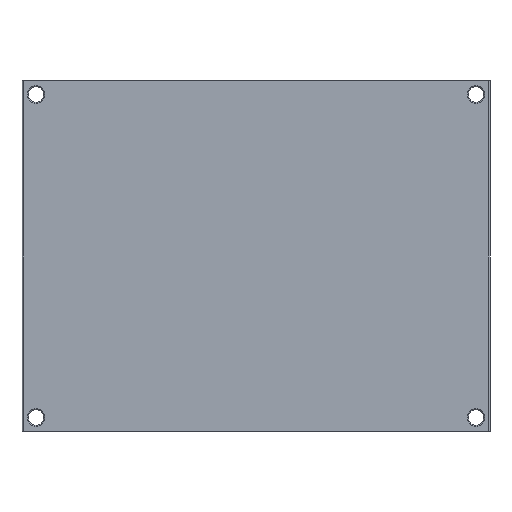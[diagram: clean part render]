
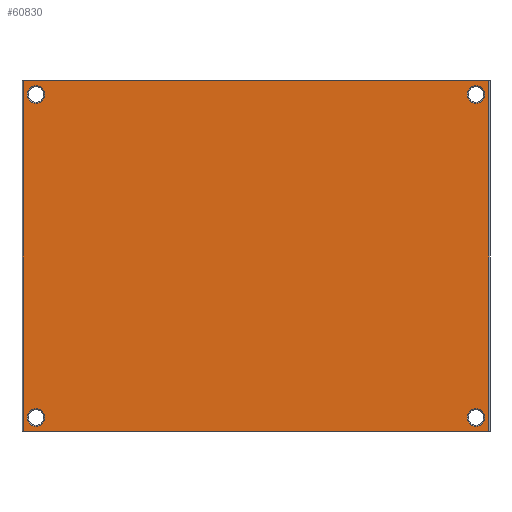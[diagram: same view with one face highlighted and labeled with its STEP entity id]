
A CAD part, front view. The second image highlights one B-rep face of the part: STEP entity #60830.
In plain terms, the highlighted planar face has unit normal (0, -1, 0).
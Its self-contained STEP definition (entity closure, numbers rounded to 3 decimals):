
#727=FACE_BOUND('',#10921,.T.);
#728=FACE_BOUND('',#10922,.T.);
#729=FACE_BOUND('',#10923,.T.);
#730=FACE_BOUND('',#10924,.T.);
#2230=PLANE('',#66499);
#7316=FACE_OUTER_BOUND('',#10920,.T.);
#10920=EDGE_LOOP('',(#53648,#53649,#53650,#53651));
#10921=EDGE_LOOP('',(#53652,#53653));
#10922=EDGE_LOOP('',(#53654,#53655));
#10923=EDGE_LOOP('',(#53656,#53657));
#10924=EDGE_LOOP('',(#53658,#53659));
#15539=LINE('',#127500,#20215);
#15541=LINE('',#127509,#20217);
#15542=LINE('',#127510,#20218);
#15543=LINE('',#127511,#20219);
#20215=VECTOR('',#82233,1000.);
#20217=VECTOR('',#82241,1000.);
#20218=VECTOR('',#82242,1000.);
#20219=VECTOR('',#82243,1000.);
#22820=CIRCLE('',#66082,3.8);
#22821=CIRCLE('',#66083,3.8);
#22824=CIRCLE('',#66087,3.8);
#22825=CIRCLE('',#66088,3.8);
#22828=CIRCLE('',#66092,3.8);
#22829=CIRCLE('',#66093,3.8);
#22832=CIRCLE('',#66097,3.8);
#22833=CIRCLE('',#66098,3.8);
#28304=VERTEX_POINT('',#126573);
#28305=VERTEX_POINT('',#126575);
#28308=VERTEX_POINT('',#126583);
#28309=VERTEX_POINT('',#126585);
#28312=VERTEX_POINT('',#126593);
#28313=VERTEX_POINT('',#126595);
#28316=VERTEX_POINT('',#126603);
#28317=VERTEX_POINT('',#126605);
#28648=VERTEX_POINT('',#127498);
#28649=VERTEX_POINT('',#127499);
#28652=VERTEX_POINT('',#127507);
#28653=VERTEX_POINT('',#127508);
#36555=EDGE_CURVE('',#28305,#28304,#22820,.T.);
#36556=EDGE_CURVE('',#28304,#28305,#22821,.T.);
#36560=EDGE_CURVE('',#28309,#28308,#22824,.T.);
#36561=EDGE_CURVE('',#28308,#28309,#22825,.T.);
#36565=EDGE_CURVE('',#28313,#28312,#22828,.T.);
#36566=EDGE_CURVE('',#28312,#28313,#22829,.T.);
#36570=EDGE_CURVE('',#28317,#28316,#22832,.T.);
#36571=EDGE_CURVE('',#28316,#28317,#22833,.T.);
#36993=EDGE_CURVE('',#28648,#28649,#15539,.T.);
#36997=EDGE_CURVE('',#28652,#28653,#15541,.T.);
#36998=EDGE_CURVE('',#28652,#28648,#15542,.T.);
#36999=EDGE_CURVE('',#28649,#28653,#15543,.T.);
#53648=ORIENTED_EDGE('',*,*,#36997,.F.);
#53649=ORIENTED_EDGE('',*,*,#36998,.T.);
#53650=ORIENTED_EDGE('',*,*,#36993,.T.);
#53651=ORIENTED_EDGE('',*,*,#36999,.T.);
#53652=ORIENTED_EDGE('',*,*,#36570,.T.);
#53653=ORIENTED_EDGE('',*,*,#36571,.T.);
#53654=ORIENTED_EDGE('',*,*,#36565,.T.);
#53655=ORIENTED_EDGE('',*,*,#36566,.T.);
#53656=ORIENTED_EDGE('',*,*,#36560,.T.);
#53657=ORIENTED_EDGE('',*,*,#36561,.T.);
#53658=ORIENTED_EDGE('',*,*,#36555,.T.);
#53659=ORIENTED_EDGE('',*,*,#36556,.T.);
#60830=ADVANCED_FACE('',(#7316,#727,#728,#729,#730),#2230,.F.);
#66082=AXIS2_PLACEMENT_3D('',#126576,#81238,#81239);
#66083=AXIS2_PLACEMENT_3D('',#126577,#81240,#81241);
#66087=AXIS2_PLACEMENT_3D('',#126586,#81249,#81250);
#66088=AXIS2_PLACEMENT_3D('',#126587,#81251,#81252);
#66092=AXIS2_PLACEMENT_3D('',#126596,#81260,#81261);
#66093=AXIS2_PLACEMENT_3D('',#126597,#81262,#81263);
#66097=AXIS2_PLACEMENT_3D('',#126606,#81271,#81272);
#66098=AXIS2_PLACEMENT_3D('',#126607,#81273,#81274);
#66499=AXIS2_PLACEMENT_3D('',#127506,#82239,#82240);
#81238=DIRECTION('center_axis',(0.,1.,0.));
#81239=DIRECTION('ref_axis',(-1.,0.,0.));
#81240=DIRECTION('center_axis',(0.,1.,0.));
#81241=DIRECTION('ref_axis',(-1.,0.,0.));
#81249=DIRECTION('center_axis',(0.,1.,0.));
#81250=DIRECTION('ref_axis',(-1.,0.,0.));
#81251=DIRECTION('center_axis',(0.,1.,0.));
#81252=DIRECTION('ref_axis',(-1.,0.,0.));
#81260=DIRECTION('center_axis',(0.,1.,0.));
#81261=DIRECTION('ref_axis',(-1.,0.,0.));
#81262=DIRECTION('center_axis',(0.,1.,0.));
#81263=DIRECTION('ref_axis',(-1.,0.,0.));
#81271=DIRECTION('center_axis',(0.,1.,0.));
#81272=DIRECTION('ref_axis',(-1.,0.,0.));
#81273=DIRECTION('center_axis',(0.,1.,0.));
#81274=DIRECTION('ref_axis',(-1.,0.,0.));
#82233=DIRECTION('',(0.,0.,-1.));
#82239=DIRECTION('center_axis',(0.,1.,0.));
#82240=DIRECTION('ref_axis',(-1.,0.,0.));
#82241=DIRECTION('',(0.,0.,-1.));
#82242=DIRECTION('',(-1.,0.,0.));
#82243=DIRECTION('',(1.,0.,0.));
#126573=CARTESIAN_POINT('',(-13.482,56.981,215.396));
#126575=CARTESIAN_POINT('',(-13.482,56.981,207.796));
#126576=CARTESIAN_POINT('Origin',(-13.482,56.981,211.596));
#126577=CARTESIAN_POINT('Origin',(-13.482,56.981,211.596));
#126583=CARTESIAN_POINT('',(-13.482,56.981,77.396));
#126585=CARTESIAN_POINT('',(-13.482,56.981,69.796));
#126586=CARTESIAN_POINT('Origin',(-13.482,56.981,73.596));
#126587=CARTESIAN_POINT('Origin',(-13.482,56.981,73.596));
#126593=CARTESIAN_POINT('',(174.518,56.981,77.396));
#126595=CARTESIAN_POINT('',(174.518,56.981,69.796));
#126596=CARTESIAN_POINT('Origin',(174.518,56.981,73.596));
#126597=CARTESIAN_POINT('Origin',(174.518,56.981,73.596));
#126603=CARTESIAN_POINT('',(174.518,56.981,215.396));
#126605=CARTESIAN_POINT('',(174.518,56.981,207.796));
#126606=CARTESIAN_POINT('Origin',(174.518,56.981,211.596));
#126607=CARTESIAN_POINT('Origin',(174.518,56.981,211.596));
#127498=CARTESIAN_POINT('',(-18.982,56.981,217.396));
#127499=CARTESIAN_POINT('',(-18.982,56.981,67.796));
#127500=CARTESIAN_POINT('',(-18.982,56.981,1067.596));
#127506=CARTESIAN_POINT('Origin',(-18.982,56.981,1067.596));
#127507=CARTESIAN_POINT('',(180.018,56.981,217.396));
#127508=CARTESIAN_POINT('',(180.018,56.981,67.796));
#127509=CARTESIAN_POINT('',(180.018,56.981,1067.596));
#127510=CARTESIAN_POINT('',(-18.982,56.981,217.396));
#127511=CARTESIAN_POINT('',(-18.982,56.981,67.796));
